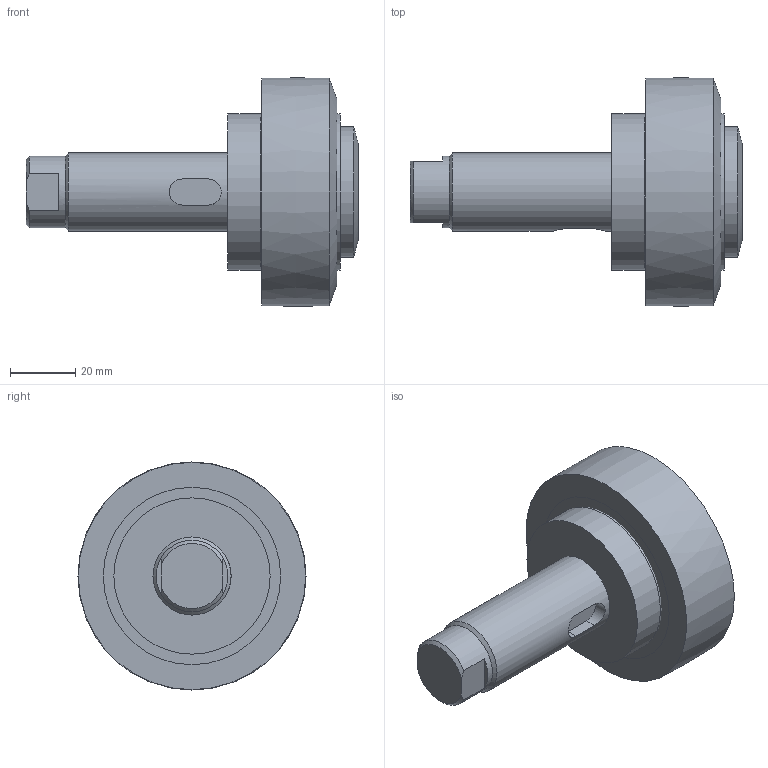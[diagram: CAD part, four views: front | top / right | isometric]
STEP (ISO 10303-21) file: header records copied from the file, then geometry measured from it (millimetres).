
FILE_DESCRIPTION(/* description */ ('-','CAx-IF Rec.Pracs.---Representation and Presentation of Product Manufacturing Information (PMI)---4.0---2014-10-13'),/* implementation_level */ '2;1');
FILE_NAME(/* name */ 'c:\temp\391e0ba9-4fc9-45ae-b0a1-2ae2a3cc4696\4e24d219-5102-4dd6-bcab-5f618fbdd7fe.stp',/* time_stamp */ '2020-05-28T11:29:01+02:00',/* author */ ('-'),/* organization */ ('NTI CADcenter A/S'),/* preprocessor_version */ 'ST-DEVELOPER v18',/* originating_system */ 'Autodesk Inventor 2020',/* authorisation */ '-');
FILE_SCHEMA (('AP242_MANAGED_MODEL_BASED_3D_ENGINEERING_MIM_LF { 1 0 10303 442 1 1 4 }'));
Length unit declared in the file: millimetre
Products named in the file (1): TR 070.1360_Kontur
Bounding box: 102 x 70.1 x 70.09 mm (x, y, z)
Volume: 227518.6 mm3; surface area: 50809.3 mm2
Topology: 7 solids, 7 shells, 53 faces, 108 edges, 77 vertices
Faces by surface type: plane 28, cylinder 16, cone 8, bspline 1
Full cylindrical faces by diameter (mm): 22 x1, 24 x1, 25.2 x1, 35 x1, 40 x1, 42 x1, 48 x4, 52 x2, 54.5 x2
Entity records: 1641 total; most frequent: CARTESIAN_POINT 337, DIRECTION 274, ORIENTED_EDGE 216, AXIS2_PLACEMENT_3D 119, EDGE_CURVE 108, VERTEX_POINT 77, CIRCLE 66, EDGE_LOOP 61
